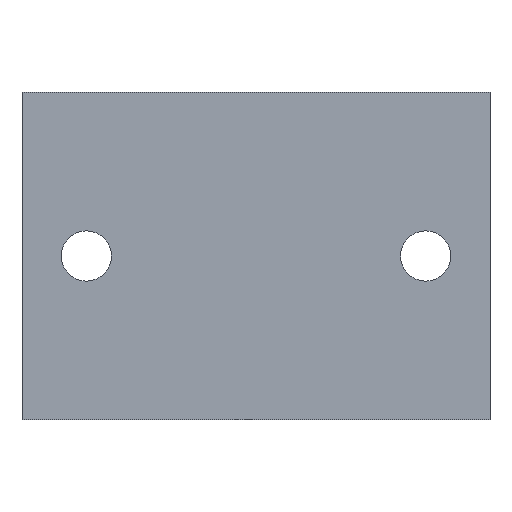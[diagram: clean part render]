
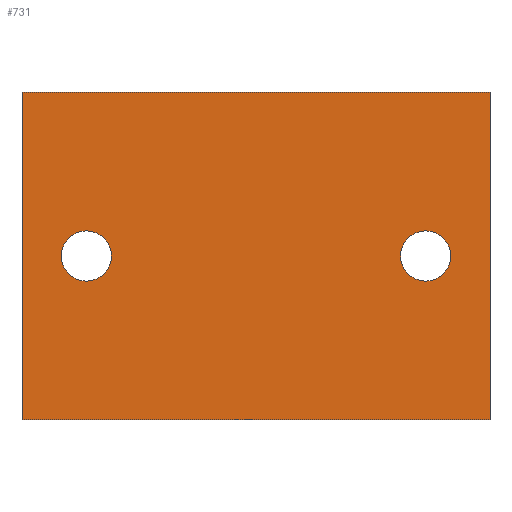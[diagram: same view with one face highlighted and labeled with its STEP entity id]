
A CAD part, front view. The second image highlights one B-rep face of the part: STEP entity #731.
In plain terms, the highlighted planar face has unit normal (0, -1, 0).
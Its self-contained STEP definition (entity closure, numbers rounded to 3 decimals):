
#18 = CIRCLE ( 'NONE', #640, 2.15 ) ;
#21 = EDGE_CURVE ( 'NONE', #389, #216, #152, .T. ) ;
#24 = ORIENTED_EDGE ( 'NONE', *, *, #207, .T. ) ;
#35 = CARTESIAN_POINT ( 'NONE',  ( -14.5, -16.5, -2.15 ) ) ;
#43 = VERTEX_POINT ( 'NONE', #562 ) ;
#45 = CARTESIAN_POINT ( 'NONE',  ( -20., -16.5, 14. ) ) ;
#76 = CIRCLE ( 'NONE', #483, 2.15 ) ;
#123 = CARTESIAN_POINT ( 'NONE',  ( 20., -16.5, 14. ) ) ;
#152 = LINE ( 'NONE', #486, #675 ) ;
#172 = ORIENTED_EDGE ( 'NONE', *, *, #379, .F. ) ;
#186 = ORIENTED_EDGE ( 'NONE', *, *, #835, .T. ) ;
#199 = AXIS2_PLACEMENT_3D ( 'NONE', #45, #646, #213 ) ;
#207 = EDGE_CURVE ( 'NONE', #626, #43, #534, .T. ) ;
#213 = DIRECTION ( 'NONE',  ( 0., 0., 1. ) ) ;
#216 = VERTEX_POINT ( 'NONE', #123 ) ;
#219 = ORIENTED_EDGE ( 'NONE', *, *, #870, .F. ) ;
#221 = EDGE_LOOP ( 'NONE', ( #24, #755, #642, #186 ) ) ;
#232 = VERTEX_POINT ( 'NONE', #283 ) ;
#235 = DIRECTION ( 'NONE',  ( 0., 0., -1. ) ) ;
#250 = DIRECTION ( 'NONE',  ( 0., -1., 0. ) ) ;
#254 = CARTESIAN_POINT ( 'NONE',  ( -14.5, -16.5, 0. ) ) ;
#264 = CIRCLE ( 'NONE', #296, 2.15 ) ;
#283 = CARTESIAN_POINT ( 'NONE',  ( -14.5, -16.5, 2.15 ) ) ;
#296 = AXIS2_PLACEMENT_3D ( 'NONE', #429, #315, #568 ) ;
#306 = CARTESIAN_POINT ( 'NONE',  ( -20., -16.5, 14. ) ) ;
#315 = DIRECTION ( 'NONE',  ( 0., -1., 0. ) ) ;
#321 = VECTOR ( 'NONE', #235, 1000. ) ;
#326 = VERTEX_POINT ( 'NONE', #770 ) ;
#362 = DIRECTION ( 'NONE',  ( 1., 0., 0. ) ) ;
#369 = EDGE_LOOP ( 'NONE', ( #219, #372 ) ) ;
#372 = ORIENTED_EDGE ( 'NONE', *, *, #532, .F. ) ;
#379 = EDGE_CURVE ( 'NONE', #844, #326, #264, .T. ) ;
#384 = LINE ( 'NONE', #647, #321 ) ;
#389 = VERTEX_POINT ( 'NONE', #306 ) ;
#397 = DIRECTION ( 'NONE',  ( 0., 0., -1. ) ) ;
#398 = CARTESIAN_POINT ( 'NONE',  ( -20., -16.5, -14. ) ) ;
#415 = DIRECTION ( 'NONE',  ( 1., 0., 0. ) ) ;
#426 = ORIENTED_EDGE ( 'NONE', *, *, #696, .F. ) ;
#429 = CARTESIAN_POINT ( 'NONE',  ( 14.5, -16.5, 0. ) ) ;
#443 = VERTEX_POINT ( 'NONE', #35 ) ;
#446 = CARTESIAN_POINT ( 'NONE',  ( -14.5, -16.5, 0. ) ) ;
#456 = CARTESIAN_POINT ( 'NONE',  ( -20., -16.5, -14. ) ) ;
#462 = EDGE_CURVE ( 'NONE', #216, #43, #775, .T. ) ;
#483 = AXIS2_PLACEMENT_3D ( 'NONE', #866, #250, #787 ) ;
#486 = CARTESIAN_POINT ( 'NONE',  ( -20., -16.5, 14. ) ) ;
#509 = FACE_OUTER_BOUND ( 'NONE', #221, .T. ) ;
#532 = EDGE_CURVE ( 'NONE', #232, #443, #18, .T. ) ;
#534 = LINE ( 'NONE', #456, #827 ) ;
#543 = VECTOR ( 'NONE', #778, 1000. ) ;
#562 = CARTESIAN_POINT ( 'NONE',  ( 20., -16.5, -14. ) ) ;
#568 = DIRECTION ( 'NONE',  ( 0., 0., -1. ) ) ;
#579 = FACE_BOUND ( 'NONE', #369, .T. ) ;
#582 = EDGE_LOOP ( 'NONE', ( #426, #172 ) ) ;
#626 = VERTEX_POINT ( 'NONE', #398 ) ;
#640 = AXIS2_PLACEMENT_3D ( 'NONE', #254, #724, #397 ) ;
#642 = ORIENTED_EDGE ( 'NONE', *, *, #21, .F. ) ;
#646 = DIRECTION ( 'NONE',  ( 0., 1., 0. ) ) ;
#647 = CARTESIAN_POINT ( 'NONE',  ( -20., -16.5, 14. ) ) ;
#656 = DIRECTION ( 'NONE',  ( 0., 0., -1. ) ) ;
#675 = VECTOR ( 'NONE', #362, 1000. ) ;
#696 = EDGE_CURVE ( 'NONE', #326, #844, #76, .T. ) ;
#723 = AXIS2_PLACEMENT_3D ( 'NONE', #446, #840, #656 ) ;
#724 = DIRECTION ( 'NONE',  ( 0., -1., 0. ) ) ;
#731 = ADVANCED_FACE ( 'NONE', ( #579, #795, #509 ), #861, .F. ) ;
#755 = ORIENTED_EDGE ( 'NONE', *, *, #462, .F. ) ;
#770 = CARTESIAN_POINT ( 'NONE',  ( 14.5, -16.5, -2.15 ) ) ;
#775 = LINE ( 'NONE', #842, #543 ) ;
#777 = CIRCLE ( 'NONE', #723, 2.15 ) ;
#778 = DIRECTION ( 'NONE',  ( 0., 0., -1. ) ) ;
#787 = DIRECTION ( 'NONE',  ( 0., 0., -1. ) ) ;
#795 = FACE_BOUND ( 'NONE', #582, .T. ) ;
#827 = VECTOR ( 'NONE', #415, 1000. ) ;
#835 = EDGE_CURVE ( 'NONE', #389, #626, #384, .T. ) ;
#840 = DIRECTION ( 'NONE',  ( 0., -1., 0. ) ) ;
#842 = CARTESIAN_POINT ( 'NONE',  ( 20., -16.5, 14. ) ) ;
#843 = CARTESIAN_POINT ( 'NONE',  ( 14.5, -16.5, 2.15 ) ) ;
#844 = VERTEX_POINT ( 'NONE', #843 ) ;
#861 = PLANE ( 'NONE',  #199 ) ;
#866 = CARTESIAN_POINT ( 'NONE',  ( 14.5, -16.5, 0. ) ) ;
#870 = EDGE_CURVE ( 'NONE', #443, #232, #777, .T. ) ;
